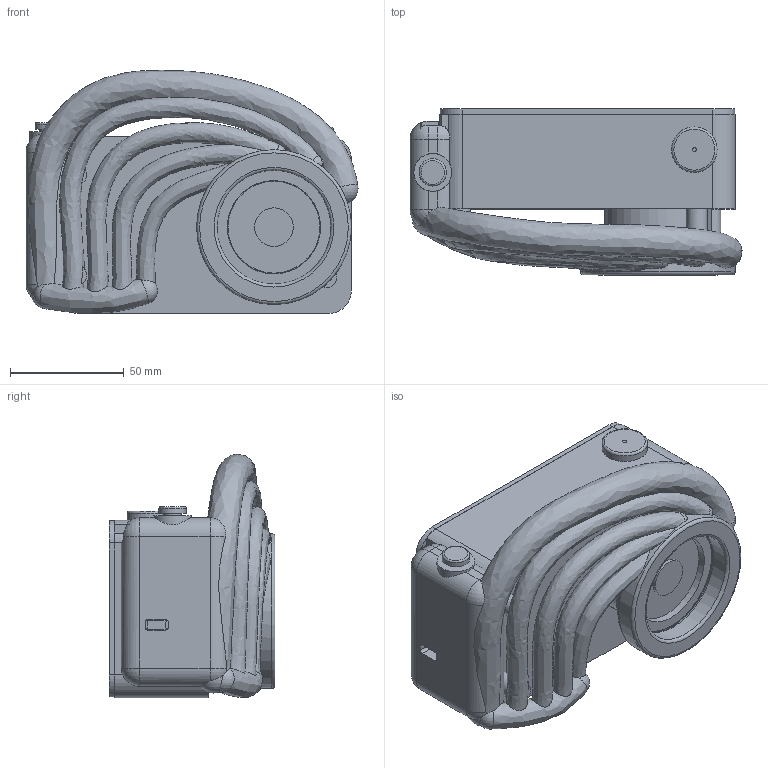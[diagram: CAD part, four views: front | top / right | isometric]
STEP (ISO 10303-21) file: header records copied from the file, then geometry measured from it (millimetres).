
FILE_DESCRIPTION(('Open CASCADE Model'),'2;1');
FILE_NAME('Open CASCADE Shape Model','2026-10-20T14:39:08',('Author'),( 'Open CASCADE'),'Open CASCADE STEP processor 7.8','Open CASCADE 7.8' ,'Unknown');
FILE_SCHEMA(('AUTOMOTIVE_DESIGN { 1 0 10303 214 1 1 1 1 }'));
Length unit declared in the file: millimetre
Products named in the file (14): Entropi_CAD_v02; 01_rib_cage; 02_chassis; 03_rear_cover; 04_esp32_carrier; 05_board_clamp; 06_optical_baffle; 07_shutter; 08_shutter_pin; 09_rear_dial; 10_io_plate; 12_lens_blank; 13_lens_blank_retainer; 14_dial_retainer
Assembly tree (13 placements, depth 2):
  Entropi_CAD_v02
    01_rib_cage
    02_chassis
    03_rear_cover
    04_esp32_carrier
    05_board_clamp
    06_optical_baffle
    07_shutter
    08_shutter_pin
    09_rear_dial
    10_io_plate
    12_lens_blank
    13_lens_blank_retainer
    14_dial_retainer
Bounding box: 145.96 x 72.9 x 106.94 mm (x, y, z)
Volume: 241620.1 mm3; surface area: 135605.9 mm2
Topology: 13 solids, 13 shells, 432 faces, 1095 edges, 699 vertices
Faces by surface type: plane 204, cylinder 175, sphere 36, torus 10, bspline 7
Full cylindrical faces by diameter (mm): 1.8 x20, 1.96 x1, 2 x1, 2.4 x20, 4.4 x2, 5 x4, 6 x1, 6.6 x1, 7.2 x2, 7.8 x1, 8.4 x1, 9 x7, 9.2 x4, 12 x1, 14.6 x1, 15 x1, 16.6 x1, 17 x2, 20 x1, 40.4 x1, 41 x1, 47 x1, 47.6 x1, 50 x2, 68 x1
Entity records: 58319 total; most frequent: CARTESIAN_POINT 36826, DIRECTION 3822, ORIENTED_EDGE 2148, PCURVE 2148, DEFINITIONAL_REPRESENTATION 2148, LINE 1837, VECTOR 1837, EDGE_CURVE 1074
